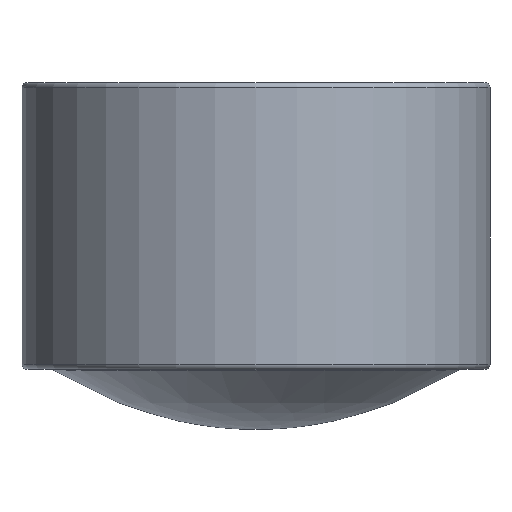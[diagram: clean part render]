
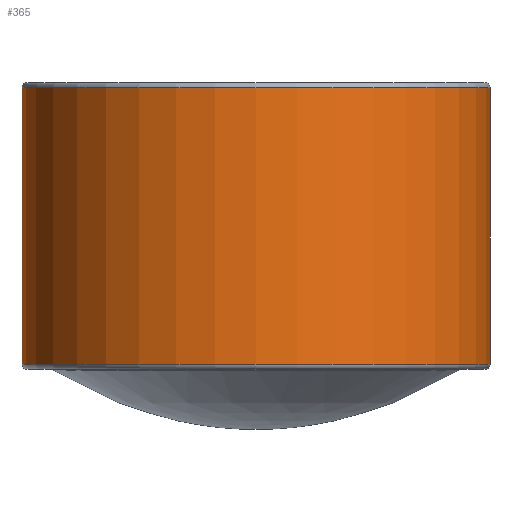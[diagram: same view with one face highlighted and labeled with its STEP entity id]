
A CAD part, front view. The second image highlights one B-rep face of the part: STEP entity #365.
In plain terms, the highlighted cylindrical face has radius 2.35 mm (diameter 4.7 mm), a partial arc.
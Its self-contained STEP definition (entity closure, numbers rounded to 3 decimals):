
#34=CARTESIAN_POINT('',(0.,0.,0.653));
#35=DIRECTION('',(0.,0.,-1.));
#36=DIRECTION('',(1.,0.,0.));
#37=AXIS2_PLACEMENT_3D('',#34,#35,#36);
#39=DIRECTION('',(0.,0.,-1.));
#40=VECTOR('',#39,2.781);
#41=CARTESIAN_POINT('',(-2.35,0.,3.434));
#42=LINE('',#41,#40);
#43=CARTESIAN_POINT('',(0.,0.,3.434));
#44=DIRECTION('',(0.,0.,-1.));
#45=DIRECTION('',(1.,0.,0.));
#46=AXIS2_PLACEMENT_3D('',#43,#44,#45);
#48=DIRECTION('',(0.,0.,-1.));
#49=VECTOR('',#48,2.781);
#50=CARTESIAN_POINT('',(2.35,0.,3.434));
#51=LINE('',#50,#49);
#272=CARTESIAN_POINT('',(2.35,0.,0.653));
#273=CARTESIAN_POINT('',(-2.35,0.,0.653));
#274=VERTEX_POINT('',#272);
#275=VERTEX_POINT('',#273);
#276=CARTESIAN_POINT('',(2.35,0.,3.434));
#277=CARTESIAN_POINT('',(-2.35,0.,3.434));
#278=VERTEX_POINT('',#276);
#279=VERTEX_POINT('',#277);
#351=CARTESIAN_POINT('',(0.,0.,-0.174));
#352=DIRECTION('',(0.,0.,1.));
#353=DIRECTION('',(-1.,0.,0.));
#354=AXIS2_PLACEMENT_3D('',#351,#352,#353);
#355=CYLINDRICAL_SURFACE('',#354,2.35);
#357=ORIENTED_EDGE('',*,*,#356,.T.);
#359=ORIENTED_EDGE('',*,*,#358,.F.);
#360=ORIENTED_EDGE('',*,*,#341,.F.);
#362=ORIENTED_EDGE('',*,*,#361,.T.);
#363=EDGE_LOOP('',(#357,#359,#360,#362));
#364=FACE_OUTER_BOUND('',#363,.F.);
#365=ADVANCED_FACE('',(#364),#355,.T.);
#38=CIRCLE('',#37,2.35);
#47=CIRCLE('',#46,2.35);
#341=EDGE_CURVE('',#278,#279,#47,.T.);
#356=EDGE_CURVE('',#274,#275,#38,.T.);
#358=EDGE_CURVE('',#279,#275,#42,.T.);
#361=EDGE_CURVE('',#278,#274,#51,.T.);
